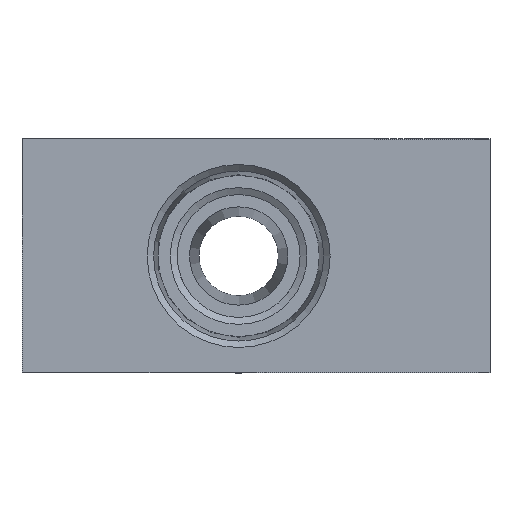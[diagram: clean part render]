
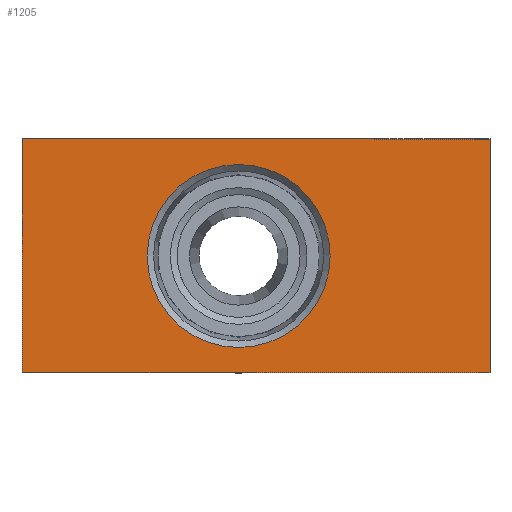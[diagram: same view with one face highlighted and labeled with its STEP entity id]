
A CAD part, left-side view. The second image highlights one B-rep face of the part: STEP entity #1205.
In plain terms, the highlighted planar face has unit normal (-1, 0, 0).
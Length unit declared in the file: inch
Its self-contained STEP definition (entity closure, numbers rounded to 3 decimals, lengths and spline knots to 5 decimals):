
#1 = AXIS2_PLACEMENT_3D ( 'NONE', #438, #853, #1173 ) ;
#29 = DIRECTION ( 'NONE',  ( 0., 1., 0. ) ) ;
#76 = CARTESIAN_POINT ( 'NONE',  ( -1.08268, -0.6875, 0.375 ) ) ;
#81 = CARTESIAN_POINT ( 'NONE',  ( -1.08268, 0.8125, -0.375 ) ) ;
#114 = EDGE_LOOP ( 'NONE', ( #812 ) ) ;
#190 = EDGE_CURVE ( 'NONE', #1119, #1119, #1074, .T. ) ;
#212 = EDGE_LOOP ( 'NONE', ( #1052, #718, #1068, #781 ) ) ;
#217 = CARTESIAN_POINT ( 'NONE',  ( -1.08268, 0.8125, 0.375 ) ) ;
#232 = DIRECTION ( 'NONE',  ( 0., 0., 1. ) ) ;
#234 = CARTESIAN_POINT ( 'NONE',  ( -1.08268, -0.6875, 0.375 ) ) ;
#302 = LINE ( 'NONE', #217, #456 ) ;
#344 = AXIS2_PLACEMENT_3D ( 'NONE', #1215, #1077, #232 ) ;
#385 = EDGE_CURVE ( 'NONE', #916, #715, #1343, .T. ) ;
#415 = EDGE_CURVE ( 'NONE', #1038, #916, #748, .T. ) ;
#421 = LINE ( 'NONE', #1182, #1295 ) ;
#438 = CARTESIAN_POINT ( 'NONE',  ( -1.08268, 0., 0. ) ) ;
#456 = VECTOR ( 'NONE', #663, 39.37008 ) ;
#663 = DIRECTION ( 'NONE',  ( 0., 0., 1. ) ) ;
#715 = VERTEX_POINT ( 'NONE', #81 ) ;
#718 = ORIENTED_EDGE ( 'NONE', *, *, #1268, .F. ) ;
#748 = LINE ( 'NONE', #76, #775 ) ;
#775 = VECTOR ( 'NONE', #1064, 39.37008 ) ;
#781 = ORIENTED_EDGE ( 'NONE', *, *, #385, .F. ) ;
#812 = ORIENTED_EDGE ( 'NONE', *, *, #190, .T. ) ;
#853 = DIRECTION ( 'NONE',  ( -1., 0., 0. ) ) ;
#857 = FACE_OUTER_BOUND ( 'NONE', #212, .T. ) ;
#897 = CARTESIAN_POINT ( 'NONE',  ( -1.08268, 0.68898, -0.375 ) ) ;
#916 = VERTEX_POINT ( 'NONE', #1020 ) ;
#1020 = CARTESIAN_POINT ( 'NONE',  ( -1.08268, -0.6875, -0.375 ) ) ;
#1038 = VERTEX_POINT ( 'NONE', #234 ) ;
#1052 = ORIENTED_EDGE ( 'NONE', *, *, #415, .F. ) ;
#1064 = DIRECTION ( 'NONE',  ( 0., 0., -1. ) ) ;
#1068 = ORIENTED_EDGE ( 'NONE', *, *, #1288, .F. ) ;
#1074 = CIRCLE ( 'NONE', #344, 0.29316 ) ;
#1077 = DIRECTION ( 'NONE',  ( 1., 0., 0. ) ) ;
#1119 = VERTEX_POINT ( 'NONE', #1237 ) ;
#1151 = VECTOR ( 'NONE', #29, 39.37008 ) ;
#1167 = PLANE ( 'NONE',  #1 ) ;
#1173 = DIRECTION ( 'NONE',  ( 0., 0., 1. ) ) ;
#1177 = VERTEX_POINT ( 'NONE', #1284 ) ;
#1182 = CARTESIAN_POINT ( 'NONE',  ( -1.08268, 0.68898, 0.375 ) ) ;
#1205 = ADVANCED_FACE ( 'NONE', ( #857, #1297 ), #1167, .T. ) ;
#1215 = CARTESIAN_POINT ( 'NONE',  ( -1.08268, 0.11811, 0. ) ) ;
#1237 = CARTESIAN_POINT ( 'NONE',  ( -1.08268, 0.11811, 0.29316 ) ) ;
#1268 = EDGE_CURVE ( 'NONE', #1177, #1038, #421, .T. ) ;
#1284 = CARTESIAN_POINT ( 'NONE',  ( -1.08268, 0.8125, 0.375 ) ) ;
#1288 = EDGE_CURVE ( 'NONE', #715, #1177, #302, .T. ) ;
#1291 = DIRECTION ( 'NONE',  ( 0., -1., 0. ) ) ;
#1295 = VECTOR ( 'NONE', #1291, 39.37008 ) ;
#1297 = FACE_BOUND ( 'NONE', #114, .T. ) ;
#1343 = LINE ( 'NONE', #897, #1151 ) ;
